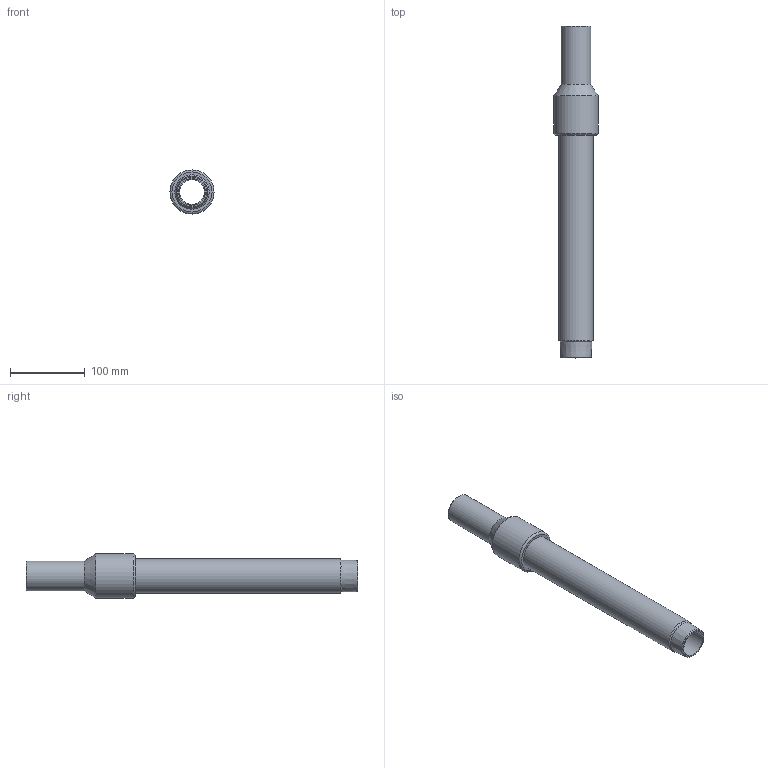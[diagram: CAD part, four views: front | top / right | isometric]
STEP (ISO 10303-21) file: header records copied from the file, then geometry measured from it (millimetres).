
FILE_DESCRIPTION(/* description */ ('Unknown'),/* implementation_level */ '2;1');
FILE_NAME(/* name */ 'RTFZRP040C',/* time_stamp */ '2022-04-27T08:57:33+02:00',/* author */ ('Unknown'),/* organization */ ('Unknown'),/* preprocessor_version */ 'ST-DEVELOPER v18.1',/* originating_system */ 'Solid Edge',/* authorisation */ 'Unknown');
FILE_SCHEMA (('AUTOMOTIVE_DESIGN {1 0 10303 214 3 1 1}'));
Length unit declared in the file: millimetre
Products named in the file (4): RTFZRP040C; Partea ACCIAIO; copertura tubo; Parte PE__oa_0
Assembly tree (3 placements, depth 2):
  RTFZRP040C
    Partea ACCIAIO
    copertura tubo
    Parte PE__oa_0
Bounding box: 59 x 444 x 59 mm (x, y, z)
Volume: 326186.5 mm3; surface area: 220021.8 mm2
Topology: 3 solids, 3 shells, 21 faces, 36 edges, 22 vertices
Faces by surface type: cylinder 8, plane 7, cone 4, torus 2
Full cylindrical faces by diameter (mm): 32.6 x1, 36 x1, 40 x1, 42.4 x2, 46 x2, 59 x1
Entity records: 574 total; most frequent: DIRECTION 92, CARTESIAN_POINT 67, AXIS2_PLACEMENT_3D 46, ORIENTED_EDGE 42, EDGE_LOOP 42, FACE_BOUND 42, EDGE_CURVE 21, VERTEX_POINT 21
